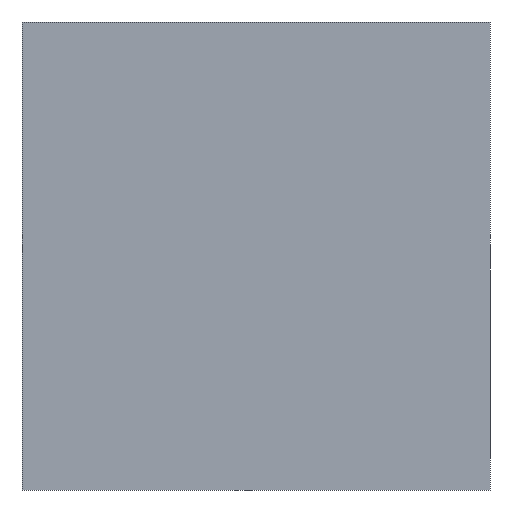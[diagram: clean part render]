
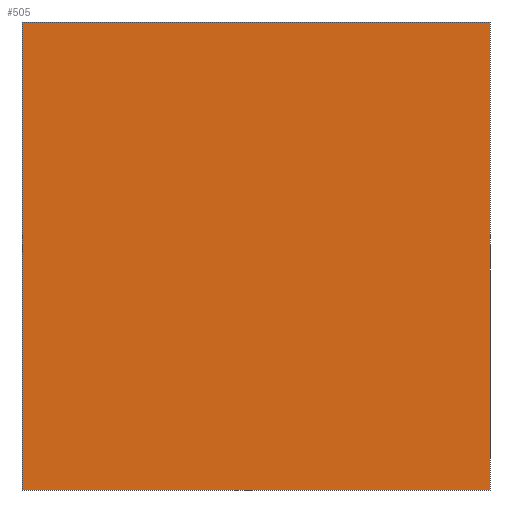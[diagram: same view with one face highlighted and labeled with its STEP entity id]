
A CAD part, front view. The second image highlights one B-rep face of the part: STEP entity #505.
In plain terms, the highlighted planar face has unit normal (0, -1, 0).
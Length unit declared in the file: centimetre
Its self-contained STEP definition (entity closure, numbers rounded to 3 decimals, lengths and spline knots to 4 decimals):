
#14 = PLANE ( 'NONE',  #503 ) ;
#18 = DIRECTION ( 'NONE',  ( 0., 1., 0. ) ) ;
#35 = EDGE_CURVE ( 'NONE', #117, #236, #56, .T. ) ;
#44 = DIRECTION ( 'NONE',  ( 0., 0., -1. ) ) ;
#49 = CARTESIAN_POINT ( 'NONE',  ( 0., 0., 0. ) ) ;
#56 = LINE ( 'NONE', #416, #407 ) ;
#58 = CARTESIAN_POINT ( 'NONE',  ( 0., 0., 0. ) ) ;
#74 = EDGE_CURVE ( 'NONE', #236, #511, #498, .T. ) ;
#86 = CARTESIAN_POINT ( 'NONE',  ( 1000., 0., 1000. ) ) ;
#117 = VERTEX_POINT ( 'NONE', #428 ) ;
#130 = DIRECTION ( 'NONE',  ( 0., 0., 1. ) ) ;
#131 = CARTESIAN_POINT ( 'NONE',  ( 1000., 0., 0. ) ) ;
#136 = CARTESIAN_POINT ( 'NONE',  ( 0., 0., 1000. ) ) ;
#155 = EDGE_LOOP ( 'NONE', ( #479, #164, #232, #345 ) ) ;
#164 = ORIENTED_EDGE ( 'NONE', *, *, #306, .F. ) ;
#191 = CARTESIAN_POINT ( 'NONE',  ( 1000., 0., 1000. ) ) ;
#209 = FACE_OUTER_BOUND ( 'NONE', #155, .T. ) ;
#216 = VECTOR ( 'NONE', #301, 100. ) ;
#232 = ORIENTED_EDGE ( 'NONE', *, *, #259, .F. ) ;
#236 = VERTEX_POINT ( 'NONE', #49 ) ;
#259 = EDGE_CURVE ( 'NONE', #117, #311, #320, .T. ) ;
#301 = DIRECTION ( 'NONE',  ( 1., 0., 0. ) ) ;
#306 = EDGE_CURVE ( 'NONE', #311, #511, #318, .T. ) ;
#311 = VERTEX_POINT ( 'NONE', #191 ) ;
#317 = VECTOR ( 'NONE', #44, 100. ) ;
#318 = LINE ( 'NONE', #86, #317 ) ;
#320 = LINE ( 'NONE', #483, #368 ) ;
#345 = ORIENTED_EDGE ( 'NONE', *, *, #35, .T. ) ;
#368 = VECTOR ( 'NONE', #399, 100. ) ;
#399 = DIRECTION ( 'NONE',  ( 1., 0., 0. ) ) ;
#407 = VECTOR ( 'NONE', #508, 100. ) ;
#416 = CARTESIAN_POINT ( 'NONE',  ( 0., 0., 1000. ) ) ;
#428 = CARTESIAN_POINT ( 'NONE',  ( 0., 0., 1000. ) ) ;
#479 = ORIENTED_EDGE ( 'NONE', *, *, #74, .T. ) ;
#483 = CARTESIAN_POINT ( 'NONE',  ( 0., 0., 1000. ) ) ;
#498 = LINE ( 'NONE', #58, #216 ) ;
#503 = AXIS2_PLACEMENT_3D ( 'NONE', #136, #18, #130 ) ;
#505 = ADVANCED_FACE ( 'NONE', ( #209 ), #14, .F. ) ;
#508 = DIRECTION ( 'NONE',  ( 0., 0., -1. ) ) ;
#511 = VERTEX_POINT ( 'NONE', #131 ) ;
